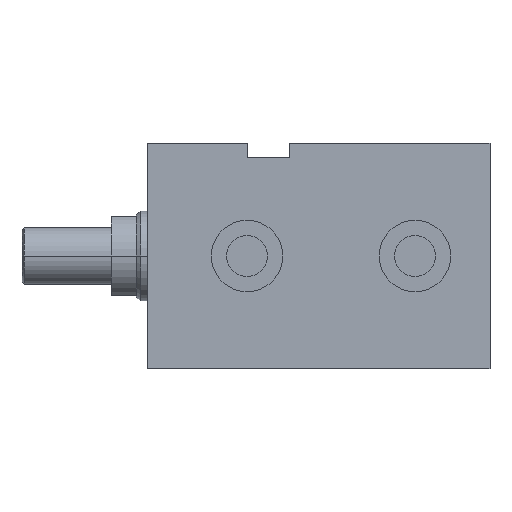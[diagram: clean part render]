
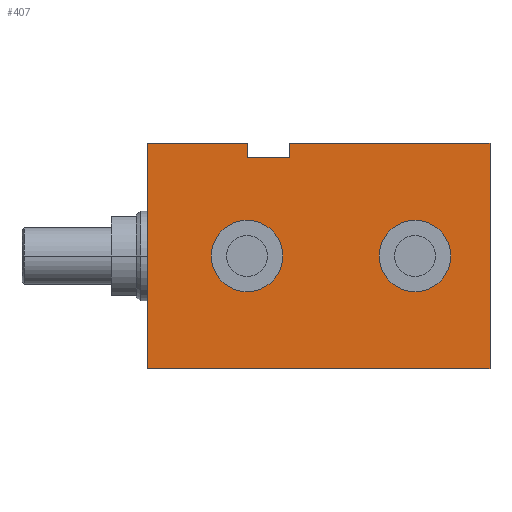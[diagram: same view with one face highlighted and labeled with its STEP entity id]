
A CAD part, left-side view. The second image highlights one B-rep face of the part: STEP entity #407.
In plain terms, the highlighted planar face has unit normal (-1, 0, 0).
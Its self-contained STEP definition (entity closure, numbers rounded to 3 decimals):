
#50 = DIRECTION ( 'NONE',  ( 0., 0., 1. ) ) ;
#74 = ORIENTED_EDGE ( 'NONE', *, *, #1863, .F. ) ;
#113 = LINE ( 'NONE', #548, #647 ) ;
#127 = DIRECTION ( 'NONE',  ( 0., 0., 1. ) ) ;
#148 = VECTOR ( 'NONE', #50, 1000. ) ;
#170 = ORIENTED_EDGE ( 'NONE', *, *, #516, .F. ) ;
#184 = CARTESIAN_POINT ( 'NONE',  ( -42.5, 71., 31.5 ) ) ;
#275 = ORIENTED_EDGE ( 'NONE', *, *, #347, .F. ) ;
#287 = EDGE_CURVE ( 'NONE', #896, #2560, #642, .T. ) ;
#290 = FACE_OUTER_BOUND ( 'NONE', #405, .T. ) ;
#325 = EDGE_LOOP ( 'NONE', ( #275, #885 ) ) ;
#328 = LINE ( 'NONE', #2853, #2669 ) ;
#342 = DIRECTION ( 'NONE',  ( -1., 0., 0. ) ) ;
#347 = EDGE_CURVE ( 'NONE', #1809, #931, #2318, .T. ) ;
#384 = EDGE_CURVE ( 'NONE', #1867, #2107, #2253, .T. ) ;
#405 = EDGE_LOOP ( 'NONE', ( #1479, #170, #2092, #1770, #1467, #468, #1975, #2404 ) ) ;
#407 = ADVANCED_FACE ( 'NONE', ( #290, #2026, #1514 ), #1653, .F. ) ;
#415 = AXIS2_PLACEMENT_3D ( 'NONE', #1703, #342, #1926 ) ;
#468 = ORIENTED_EDGE ( 'NONE', *, *, #742, .F. ) ;
#507 = VERTEX_POINT ( 'NONE', #2134 ) ;
#516 = EDGE_CURVE ( 'NONE', #507, #2149, #113, .T. ) ;
#520 = VECTOR ( 'NONE', #654, 1000. ) ;
#548 = CARTESIAN_POINT ( 'NONE',  ( -42.5, 56., 27.5 ) ) ;
#577 = CARTESIAN_POINT ( 'NONE',  ( -42.5, 68., 27.5 ) ) ;
#613 = AXIS2_PLACEMENT_3D ( 'NONE', #694, #2292, #936 ) ;
#642 = LINE ( 'NONE', #649, #2390 ) ;
#647 = VECTOR ( 'NONE', #2593, 1000. ) ;
#649 = CARTESIAN_POINT ( 'NONE',  ( -42.5, 71., 31.5 ) ) ;
#654 = DIRECTION ( 'NONE',  ( 0., -1., 0. ) ) ;
#694 = CARTESIAN_POINT ( 'NONE',  ( -42.5, 21., 0. ) ) ;
#696 = AXIS2_PLACEMENT_3D ( 'NONE', #2547, #1184, #2764 ) ;
#742 = EDGE_CURVE ( 'NONE', #1948, #896, #2644, .T. ) ;
#786 = CARTESIAN_POINT ( 'NONE',  ( -42.5, 68., -10. ) ) ;
#885 = ORIENTED_EDGE ( 'NONE', *, *, #1569, .F. ) ;
#896 = VERTEX_POINT ( 'NONE', #2087 ) ;
#931 = VERTEX_POINT ( 'NONE', #1858 ) ;
#936 = DIRECTION ( 'NONE',  ( 0., 0., 1. ) ) ;
#1116 = CIRCLE ( 'NONE', #613, 10. ) ;
#1134 = VERTEX_POINT ( 'NONE', #2516 ) ;
#1137 = VECTOR ( 'NONE', #2387, 1000. ) ;
#1149 = AXIS2_PLACEMENT_3D ( 'NONE', #2780, #2090, #1869 ) ;
#1160 = CARTESIAN_POINT ( 'NONE',  ( -42.5, 0., -31.5 ) ) ;
#1163 = DIRECTION ( 'NONE',  ( -1., 0., 0. ) ) ;
#1184 = DIRECTION ( 'NONE',  ( -1., 0., 0. ) ) ;
#1224 = CARTESIAN_POINT ( 'NONE',  ( -42.5, 21., 0. ) ) ;
#1325 = CARTESIAN_POINT ( 'NONE',  ( -42.5, 56., 31.5 ) ) ;
#1362 = VERTEX_POINT ( 'NONE', #577 ) ;
#1372 = EDGE_CURVE ( 'NONE', #1596, #1134, #328, .T. ) ;
#1386 = VECTOR ( 'NONE', #2001, 1000. ) ;
#1434 = EDGE_CURVE ( 'NONE', #2149, #1134, #2737, .T. ) ;
#1467 = ORIENTED_EDGE ( 'NONE', *, *, #287, .F. ) ;
#1479 = ORIENTED_EDGE ( 'NONE', *, *, #1434, .F. ) ;
#1514 = FACE_BOUND ( 'NONE', #2604, .T. ) ;
#1566 = CARTESIAN_POINT ( 'NONE',  ( -42.5, 68., 27.5 ) ) ;
#1569 = EDGE_CURVE ( 'NONE', #931, #1809, #1116, .T. ) ;
#1596 = VERTEX_POINT ( 'NONE', #1160 ) ;
#1653 = PLANE ( 'NONE',  #1149 ) ;
#1703 = CARTESIAN_POINT ( 'NONE',  ( -42.5, 68., 0. ) ) ;
#1717 = CIRCLE ( 'NONE', #415, 10. ) ;
#1725 = EDGE_CURVE ( 'NONE', #1362, #2560, #1960, .T. ) ;
#1744 = LINE ( 'NONE', #1931, #1137 ) ;
#1770 = ORIENTED_EDGE ( 'NONE', *, *, #1725, .T. ) ;
#1809 = VERTEX_POINT ( 'NONE', #2136 ) ;
#1830 = ORIENTED_EDGE ( 'NONE', *, *, #384, .F. ) ;
#1858 = CARTESIAN_POINT ( 'NONE',  ( -42.5, 21., -10. ) ) ;
#1863 = EDGE_CURVE ( 'NONE', #2107, #1867, #1717, .T. ) ;
#1867 = VERTEX_POINT ( 'NONE', #786 ) ;
#1869 = DIRECTION ( 'NONE',  ( 0., 0., -1. ) ) ;
#1926 = DIRECTION ( 'NONE',  ( 0., 0., 1. ) ) ;
#1931 = CARTESIAN_POINT ( 'NONE',  ( -42.5, 71., -31.5 ) ) ;
#1944 = CARTESIAN_POINT ( 'NONE',  ( -42.5, 96., -31.5 ) ) ;
#1948 = VERTEX_POINT ( 'NONE', #1944 ) ;
#1960 = LINE ( 'NONE', #2309, #148 ) ;
#1975 = ORIENTED_EDGE ( 'NONE', *, *, #2572, .T. ) ;
#2001 = DIRECTION ( 'NONE',  ( 0., -1., 0. ) ) ;
#2026 = FACE_BOUND ( 'NONE', #325, .T. ) ;
#2087 = CARTESIAN_POINT ( 'NONE',  ( -42.5, 96., 31.5 ) ) ;
#2090 = DIRECTION ( 'NONE',  ( 1., 0., 0. ) ) ;
#2092 = ORIENTED_EDGE ( 'NONE', *, *, #2838, .F. ) ;
#2107 = VERTEX_POINT ( 'NONE', #2891 ) ;
#2134 = CARTESIAN_POINT ( 'NONE',  ( -42.5, 56., 27.5 ) ) ;
#2136 = CARTESIAN_POINT ( 'NONE',  ( -42.5, 21., 10. ) ) ;
#2149 = VERTEX_POINT ( 'NONE', #1325 ) ;
#2244 = DIRECTION ( 'NONE',  ( 0., -1., 0. ) ) ;
#2253 = CIRCLE ( 'NONE', #696, 10. ) ;
#2292 = DIRECTION ( 'NONE',  ( -1., 0., 0. ) ) ;
#2309 = CARTESIAN_POINT ( 'NONE',  ( -42.5, 68., 27.5 ) ) ;
#2318 = CIRCLE ( 'NONE', #2735, 10. ) ;
#2387 = DIRECTION ( 'NONE',  ( 0., -1., 0. ) ) ;
#2390 = VECTOR ( 'NONE', #2244, 1000. ) ;
#2404 = ORIENTED_EDGE ( 'NONE', *, *, #1372, .T. ) ;
#2406 = LINE ( 'NONE', #1566, #520 ) ;
#2503 = VECTOR ( 'NONE', #2942, 1000. ) ;
#2516 = CARTESIAN_POINT ( 'NONE',  ( -42.5, 0., 31.5 ) ) ;
#2547 = CARTESIAN_POINT ( 'NONE',  ( -42.5, 68., 0. ) ) ;
#2560 = VERTEX_POINT ( 'NONE', #2833 ) ;
#2572 = EDGE_CURVE ( 'NONE', #1948, #1596, #1744, .T. ) ;
#2593 = DIRECTION ( 'NONE',  ( 0., 0., 1. ) ) ;
#2604 = EDGE_LOOP ( 'NONE', ( #74, #1830 ) ) ;
#2644 = LINE ( 'NONE', #2717, #2503 ) ;
#2669 = VECTOR ( 'NONE', #127, 1000. ) ;
#2717 = CARTESIAN_POINT ( 'NONE',  ( -42.5, 96., -31.5 ) ) ;
#2735 = AXIS2_PLACEMENT_3D ( 'NONE', #1224, #1163, #2747 ) ;
#2737 = LINE ( 'NONE', #184, #1386 ) ;
#2747 = DIRECTION ( 'NONE',  ( 0., 0., 1. ) ) ;
#2764 = DIRECTION ( 'NONE',  ( 0., 0., 1. ) ) ;
#2780 = CARTESIAN_POINT ( 'NONE',  ( -42.5, 71., -31.5 ) ) ;
#2833 = CARTESIAN_POINT ( 'NONE',  ( -42.5, 68., 31.5 ) ) ;
#2838 = EDGE_CURVE ( 'NONE', #1362, #507, #2406, .T. ) ;
#2853 = CARTESIAN_POINT ( 'NONE',  ( -42.5, 0., -31.5 ) ) ;
#2891 = CARTESIAN_POINT ( 'NONE',  ( -42.5, 68., 10. ) ) ;
#2942 = DIRECTION ( 'NONE',  ( 0., 0., 1. ) ) ;
